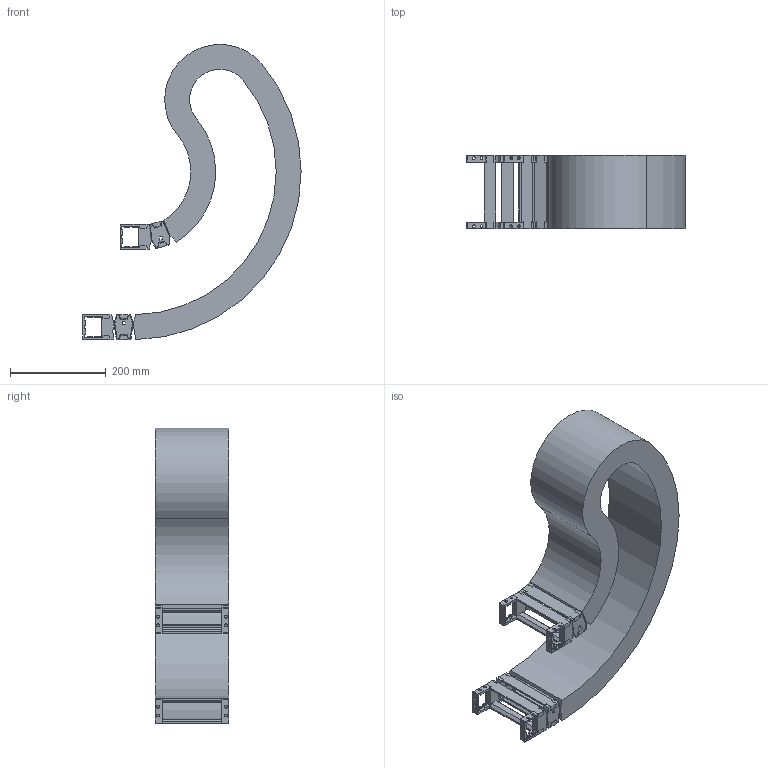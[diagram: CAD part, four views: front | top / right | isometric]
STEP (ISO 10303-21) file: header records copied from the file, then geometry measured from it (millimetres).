
FILE_DESCRIPTION( ( 'STEP AP214' ), '1' );
FILE_NAME( 'e:/temp/worker_59/temp/exporttempdir_96_480_VUYYt/format_1/RV040CRA15316112070230340-001251890.0647.stp', '2021-07-26T15:25:33', ( 'License CC BY-ND 4.0' ), ( 'CADENAS' ), ' ', 'PARTsolutions', ' ' );
FILE_SCHEMA( ( 'AUTOMOTIVE_DESIGN { 1 0 10303 214 1 1 1 1 }' ) );
Length unit declared in the file: millimetre
Products named in the file (4): RV040CRA15316112070230340-001251890.0647; _RV040CRA15316112070230340-001251152.16-Chain; _RV040CR-SU-40-125; _RV040CR_FB-153
Assembly tree (5 placements, depth 2):
  RV040CRA15316112070230340-001251890.0647
    _RV040CRA15316112070230340-001251152.16-Chain
    _RV040CR-SU-40-125  x2
    _RV040CR_FB-153  x2
Bounding box: 455 x 153 x 615.45 mm (x, y, z)
Volume: 4104329.1 mm3; surface area: 1061969.3 mm2
Topology: 5 solids, 5 shells, 692 faces, 2020 edges, 1332 vertices
Faces by surface type: plane 524, cylinder 168
Full cylindrical faces by diameter (mm): 6 x24
Entity records: 14556 total; most frequent: CARTESIAN_POINT 2056, ORIENTED_EDGE 2036, DIRECTION 1930, EDGE_CURVE 1018, LINE 830, VECTOR 830, VERTEX_POINT 676, AXIS2_PLACEMENT_3D 550
